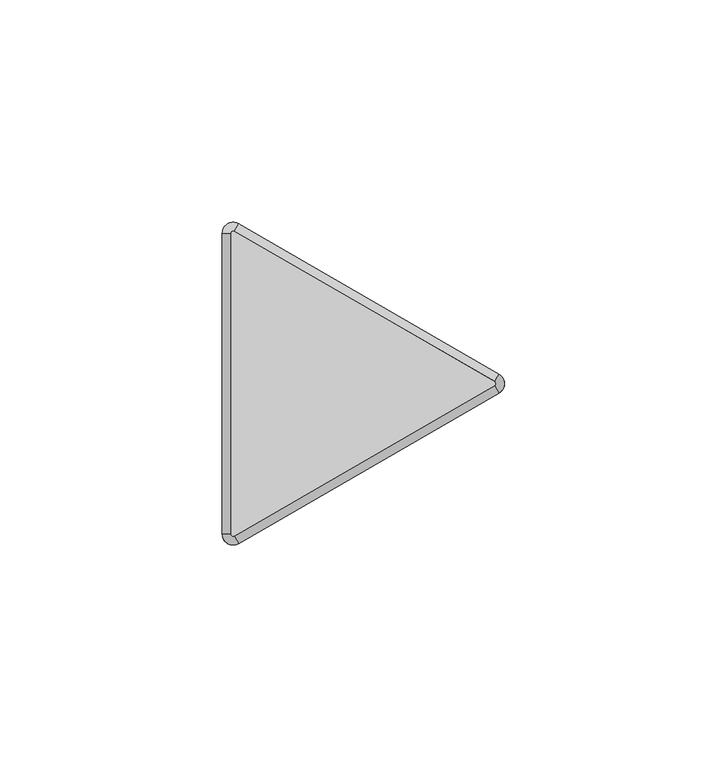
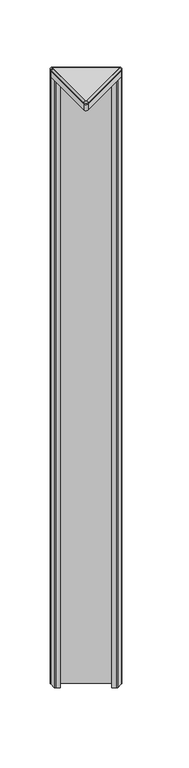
"""IFC4 building model written with IfcOpenShell, lengths in millimetres: furniture geometry, Steelcase - Answer Solution - Panel - 120deg Change-of-Height Trim - Thin : V Corner - 30H for 78H App."""

import ifcopenshell
import ifcopenshell.guid

model = None  # the IFC model being written
_history = None  # IfcOwnerHistory: only IFC2X3 demands one
_inside = {}  # id of a spatial element -> (the spatial element, [elements in it])
_under = {}  # id of a project, library or spatial element -> (it, [spatial elements below it])
_declared = {}  # id of a project -> (the project, [libraries it declares])
_typed = {}  # id of a type object -> (the type object, [elements of that type])
_made_of = {}  # id of a material, layer set ... -> (it, [elements and type objects made of it])


def new_model(schema):
    """Start an empty IFC model of exactly this schema.

    Asked for "IFC4X3", IfcOpenShell would pick the latest addendum, in which some entities
    have other attributes; the version numbers below select the first issue.
    IFC2X3 requires an IfcOwnerHistory on every rooted entity: one is made here for all.
    """
    global model, _history
    if schema == "IFC4X3":
        model = ifcopenshell.file(schema_version=(4, 3, 0, 0))
    else:
        model = ifcopenshell.file(schema=schema)
    _inside.clear()
    _under.clear()
    _declared.clear()
    _typed.clear()
    _made_of.clear()
    _history = None
    if model.schema == "IFC2X3":
        org = make("IfcOrganization", Name="unknown")
        user = make(
            "IfcPersonAndOrganization",
            ThePerson=make("IfcPerson", FamilyName="unknown"),
            TheOrganization=org,
        )
        app = make(
            "IfcApplication",
            ApplicationDeveloper=org,
            Version="unknown",
            ApplicationFullName="unknown",
            ApplicationIdentifier="unknown",
        )
        _history = make(
            "IfcOwnerHistory",
            OwningUser=user,
            OwningApplication=app,
            ChangeAction="ADDED",
            CreationDate=0,
        )
    return model


def make(cls, **values):
    """One entity of the class cls with the attributes given. An attribute that is None is left unset."""
    return model.create_entity(
        cls, **{name: value for name, value in values.items() if value is not None}
    )


def rooted(cls, **values):
    """An entity with a GlobalId (a new one), such as an element, a storey or a relation."""
    return make(cls, GlobalId=ifcopenshell.guid.new(), OwnerHistory=_history, **values)


def si_unit(unit_type, name, prefix=None):
    """IfcSIUnit, for example si_unit("LENGTHUNIT", "METRE", prefix="MILLI")."""
    return make("IfcSIUnit", UnitType=unit_type, Prefix=prefix, Name=name)


def assignment(units):
    """IfcUnitAssignment: the units of a project."""
    return None if units is None else make("IfcUnitAssignment", Units=units)


def point(xyz):
    """IfcCartesianPoint."""
    return None if xyz is None else make("IfcCartesianPoint", Coordinates=xyz)


def direction(xyz):
    """IfcDirection."""
    return None if xyz is None else make("IfcDirection", DirectionRatios=xyz)


def frame(location, z_axis=None, x_axis=None):
    """IfcAxis2Placement3D, a coordinate frame: its origin and axes. An axis left out is left unset."""
    return make(
        "IfcAxis2Placement3D",
        Location=point(location),
        Axis=direction(z_axis),
        RefDirection=direction(x_axis),
    )


def frame_2d(location, x_axis=None):
    """IfcAxis2Placement2D, a coordinate frame in the plane: its origin and x axis."""
    return make(
        "IfcAxis2Placement2D", Location=point(location), RefDirection=direction(x_axis)
    )


def origin():
    """The frame at (0, 0, 0) with its axes left unset."""
    return frame((0.0, 0.0, 0.0))


def place(relative_to, where):
    """IfcLocalPlacement: puts the frame where relative to a parent placement (None: the world)."""
    return make(
        "IfcLocalPlacement", PlacementRelTo=relative_to, RelativePlacement=where
    )


def context(
    kind, dimensions, precision=None, world=None, true_north=None, identifier=None
):
    """IfcGeometricRepresentationContext, for example the 3D "Model" context."""
    return make(
        "IfcGeometricRepresentationContext",
        ContextIdentifier=identifier,
        ContextType=kind,
        CoordinateSpaceDimension=dimensions,
        Precision=precision,
        WorldCoordinateSystem=world,
        TrueNorth=true_north,
    )


def project(units=None, contexts=None):
    """IfcProject with its units and contexts."""
    return rooted(
        "IfcProject",
        Name="project",
        RepresentationContexts=contexts,
        UnitsInContext=assignment(units),
    )


def spatial(cls, under=None, at=None, **own):
    """A site, building, storey or space (cls), placed at a placement, below another one or the project."""
    s = rooted(cls, ObjectPlacement=at, **own)
    if under is not None:
        _under.setdefault(under.id(), (under, []))[1].append(s)
    return s


def polyline(points):
    """IfcPolyline through the points."""
    return make("IfcPolyline", Points=[point(p) for p in points])


def circle_curve(where, radius):
    """IfcCircle in the frame where."""
    return make("IfcCircle", Position=where, Radius=radius)


def ellipse_curve(where, semi_axis1, semi_axis2):
    """IfcEllipse in the frame where."""
    return make(
        "IfcEllipse", Position=where, SemiAxis1=semi_axis1, SemiAxis2=semi_axis2
    )


def trimmed(basis, trim1, trim2, sense, master):
    """IfcTrimmedCurve: the piece of a basis curve between two trims."""
    return make(
        "IfcTrimmedCurve",
        BasisCurve=basis,
        Trim1=trim1,
        Trim2=trim2,
        SenseAgreement=sense,
        MasterRepresentation=master,
    )


def segment(curve, same_sense, transition):
    """IfcCompositeCurveSegment."""
    return make(
        "IfcCompositeCurveSegment",
        Transition=transition,
        SameSense=same_sense,
        ParentCurve=curve,
    )


def composite_curve(segments, self_intersect=None):
    """IfcCompositeCurve: segments joined end to end."""
    return make("IfcCompositeCurve", Segments=segments, SelfIntersect=self_intersect)


def outline(outer, holes=None, kind="AREA"):
    """IfcArbitraryClosedProfileDef: a profile drawn as a closed curve; with holes, ...WithVoids."""
    if holes is None:
        return make("IfcArbitraryClosedProfileDef", ProfileType=kind, OuterCurve=outer)
    return make(
        "IfcArbitraryProfileDefWithVoids",
        ProfileType=kind,
        OuterCurve=outer,
        InnerCurves=holes,
    )


def extrude(swept, where, along, depth):
    """IfcExtrudedAreaSolid: the profile swept, set in the frame where, extruded along a direction by depth."""
    return make(
        "IfcExtrudedAreaSolid",
        SweptArea=swept,
        Position=where,
        ExtrudedDirection=direction(along),
        Depth=depth,
    )


def shape(context_of_items, identifier, shape_type, items):
    """IfcShapeRepresentation: the items that make up one representation, for example the "Body"."""
    return make(
        "IfcShapeRepresentation",
        ContextOfItems=context_of_items,
        RepresentationIdentifier=identifier,
        RepresentationType=shape_type,
        Items=items,
    )


def source(mapping_origin, context_of_items, identifier, shape_type, items):
    """IfcRepresentationMap: a shape defined once, which mapped items show again and again."""
    return make(
        "IfcRepresentationMap",
        MappingOrigin=mapping_origin,
        MappedRepresentation=shape(context_of_items, identifier, shape_type, items),
    )


def transform(
    local_origin,
    x_axis=None,
    y_axis=None,
    z_axis=None,
    scale=None,
    scale2=None,
    scale3=None,
    uniform=True,
):
    """IfcCartesianTransformationOperator3D, or its non-uniform kind. x_axis, y_axis, z_axis: its Axis1, 2, 3."""
    if uniform:
        return make(
            "IfcCartesianTransformationOperator3D",
            Axis1=direction(x_axis),
            Axis2=direction(y_axis),
            LocalOrigin=point(local_origin),
            Scale=scale,
            Axis3=direction(z_axis),
        )
    return make(
        "IfcCartesianTransformationOperator3DnonUniform",
        Axis1=direction(x_axis),
        Axis2=direction(y_axis),
        LocalOrigin=point(local_origin),
        Scale=scale,
        Axis3=direction(z_axis),
        Scale2=scale2,
        Scale3=scale3,
    )


def mapped(mapping_source, mapping_target):
    """IfcMappedItem: shows the shape of a source again, moved by a transform."""
    return make(
        "IfcMappedItem", MappingSource=mapping_source, MappingTarget=mapping_target
    )


def made_of(thing, what):
    """Note that an element or type object is made of a material, layer set ...; save() writes the relation."""
    if what is not None:
        _made_of.setdefault(what.id(), (what, []))[1].append(thing)
    return thing


def element(
    cls,
    number,
    at=None,
    inside=None,
    cuts=None,
    type_object=None,
    material=None,
    context=None,
    identifier="Body",
    shape_type=None,
    held_by="IfcProductDefinitionShape",
    body=None,
    shapes=None,
    **own,
):
    """One element of the class cls, such as IfcWall. Its Tag is "e" and its number.

    at: its placement. inside: the storey or other place that contains it. cuts: it is an
    opening in that element (IfcRelVoidsElement). A single representation is given by context,
    identifier, shape_type and body (its items); several are given by shapes. held_by: the class
    of the entity that holds the representations. save() writes the other relations.
    """
    e = rooted(cls, Tag="e%d" % number, ObjectPlacement=at, **own)
    if body is not None:
        shapes = [shape(context, identifier, shape_type, body)]
    if shapes is not None:
        e.Representation = make(held_by, Representations=shapes)
    if inside is not None:
        _inside.setdefault(inside.id(), (inside, []))[1].append(e)
    if cuts is not None:
        rooted(
            "IfcRelVoidsElement", RelatingBuildingElement=cuts, RelatedOpeningElement=e
        )
    if type_object is not None:
        _typed.setdefault(type_object.id(), (type_object, []))[1].append(e)
    return made_of(e, material)


def aggregate(whole, parts):
    """IfcRelAggregates: a whole, such as a stair, and the parts it consists of."""
    return rooted("IfcRelAggregates", RelatingObject=whole, RelatedObjects=parts)


def save(model, path):
    """Write the relations noted so far, then the file.

    IfcRelAggregates (storeys below a building ...), IfcRelContainedInSpatialStructure (elements
    in a storey), IfcRelDefinesByType, IfcRelAssociatesMaterial and IfcRelDeclares: one each for
    every whole, place, type object, material and project.
    """
    for whole, parts in _under.values():
        aggregate(whole, parts)
    for where, things in _inside.values():
        rooted(
            "IfcRelContainedInSpatialStructure",
            RelatedElements=things,
            RelatingStructure=where,
        )
    for kind, things in _typed.values():
        rooted("IfcRelDefinesByType", RelatedObjects=things, RelatingType=kind)
    for what, things in _made_of.values():
        rooted("IfcRelAssociatesMaterial", RelatedObjects=things, RelatingMaterial=what)
    for by, libraries in _declared.values():
        rooted("IfcRelDeclares", RelatingContext=by, RelatedDefinitions=libraries)
    model.write(path)


def plane_surface(at):
    """IfcPlane: the flat surface through the origin of the frame at, square to its z axis."""
    return make("IfcPlane", Position=at)


def cylinder_surface(at, radius):
    """IfcCylindricalSurface: all points at the distance radius from the z axis of the frame at."""
    return make("IfcCylindricalSurface", Position=at, Radius=radius)


def revolved_surface(curve, axis_point, axis_direction):
    """IfcSurfaceOfRevolution: the curve turned about the line through axis_point along axis_direction."""
    return make(
        "IfcSurfaceOfRevolution",
        SweptCurve=make("IfcArbitraryOpenProfileDef", ProfileType="CURVE", Curve=curve),
        AxisPosition=make("IfcAxis1Placement", Location=point(axis_point), Axis=direction(axis_direction)),
    )


def advanced_brep(points, edges, surfaces, faces):
    """IfcAdvancedBrep: a solid bounded by faces that lie on surfaces and meet in shared edges.

    An edge is (start, end): straight between two places in points (the first is 0);
    or (start, end, curve); or (start, end, curve, False) where it runs against its curve.
    A face is (place in surfaces, loops), or (place, loops, False) where it looks against
    its surface's normal. A loop lists edges by number (the first is 1), with a minus sign
    where the edge is run from its end to its start. The first loop is the outer one.
    """
    corners = [point(p) for p in points]
    vertices = [make("IfcVertexPoint", VertexGeometry=c) for c in corners]
    made = []
    for start, end, *more in edges:
        made.append(
            make(
                "IfcEdgeCurve",
                EdgeStart=vertices[start],
                EdgeEnd=vertices[end],
                EdgeGeometry=more[0] if more else make("IfcPolyline", Points=[corners[start], corners[end]]),
                SameSense=more[1] if len(more) > 1 else True,
            )
        )
    hull = []
    for where, loops, *sense in faces:
        bounds = []
        for j, loop in enumerate(loops):
            ring = [make("IfcOrientedEdge", EdgeElement=made[abs(k) - 1], Orientation=k > 0) for k in loop]
            bounds.append(
                make(
                    "IfcFaceOuterBound" if j == 0 else "IfcFaceBound",
                    Bound=make("IfcEdgeLoop", EdgeList=ring),
                    Orientation=True,
                )
            )
        hull.append(make("IfcAdvancedFace", Bounds=bounds, FaceSurface=surfaces[where], SameSense=sense[0] if sense else True))
    return make("IfcAdvancedBrep", Outer=make("IfcClosedShell", CfsFaces=hull))


def furniture_93f3fe4d(model_context):
    return source(origin(), model_context, "Body", "SolidModel", [
        advanced_brep(
        [(-10.518645, -37.3335529, 1985.6628978), (-14.2052101, -35.2051135, 1985.6628978), (-14.2052101, -35.2051135, 1984.7164663), (-10.518645, -37.3335529, 1984.7164663), (-11.46175, -35.7000471, 1987.55), (-12.319, -35.2051135, 1987.55), (-11.46175, -35.7000471, 1984.7164663), (-12.319, -35.2051135, 1984.7164663), (48.0429908, -3.5229767, 1984.7164663), (48.0429908, -3.5229767, 1985.6628978), (47.0998858, -1.8894709, 1987.55), (47.0998858, -1.8894709, 1984.7164663), (48.0429908, 0.733902, 1985.6628978), (48.0429908, 0.733902, 1984.7164663), (47.0998858, -0.8996038, 1987.55), (47.0998858, -0.8996038, 1984.7164663), (-10.518645, 34.5444782, 1984.7164663), (-14.2052101, 32.4160388, 1984.7164663), (-11.46175, 32.9109723, 1984.7164663), (-12.319, 32.4160388, 1984.7164663), (-10.518645, 34.5444782, 1985.6628978), (-11.46175, 32.9109723, 1987.55), (-14.2052101, 32.4160388, 1985.6628978), (-12.319, 32.4160388, 1987.55)],
        [
            (0, 1, circle_curve(frame((-11.7475, -35.2051135, 1985.6628978), z_axis=(0.0, 0.0, -1.0), x_axis=(-1.0, 0.0, 0.0)), 2.4577101)),
            (1, 2),
            (2, 3, circle_curve(frame((-11.7475, -35.2051135, 1984.7164663), z_axis=(0.0, 0.0, 1.0), x_axis=(-1.0, 0.0, 0.0)), 2.4577101)),
            (3, 0),
            (4, 5, circle_curve(frame((-11.7475, -35.2051135, 1987.55), z_axis=(0.0, 0.0, -1.0), x_axis=(-1.0, 0.0, 0.0)), 0.5715)),
            (5, 1, circle_curve(frame((-12.3181076, -35.2051135, 1985.6628978), z_axis=(0.0, -1.0, 0.0), x_axis=(1.0, 0.0, 0.0)), 1.8871024)),
            (0, 4, circle_curve(frame((-11.4621962, -35.6992743, 1985.6628978), z_axis=(-0.8660254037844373, -0.5000000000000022, 0.0), x_axis=(-0.5000000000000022, 0.8660254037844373, 0.0)), 1.8871024)),
            (6, 7, circle_curve(frame((-11.7475, -35.2051135, 1984.7164663), z_axis=(0.0, 0.0, -1.0), x_axis=(-1.0, 0.0, 0.0)), 0.5715)),
            (7, 5),
            (4, 6),
            (3, 8),
            (8, 9),
            (9, 0),
            (9, 10, circle_curve(frame((47.0994396, -1.8886981, 1985.6628978), z_axis=(-0.8660254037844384, -0.5000000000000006, 0.0), x_axis=(-0.5000000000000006, 0.8660254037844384, 0.0)), 1.8871024)),
            (10, 4),
            (10, 11),
            (11, 6),
            (12, 9, circle_curve(frame((46.8141358, -1.3945374, 1985.6628978), z_axis=(0.0, 0.0, -1.0), x_axis=(0.4999999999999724, -0.8660254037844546, 0.0)), 2.4577101)),
            (8, 13, circle_curve(frame((46.8141358, -1.3945374, 1984.7164663), z_axis=(0.0, 0.0, 1.0), x_axis=(0.4999999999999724, -0.8660254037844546, 0.0)), 2.4577101)),
            (13, 12),
            (14, 10, circle_curve(frame((46.8141358, -1.3945374, 1987.55), z_axis=(0.0, 0.0, -1.0), x_axis=(0.4999999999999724, -0.8660254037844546, 0.0)), 0.5715)),
            (12, 14, circle_curve(frame((47.0994396, -0.9003766, 1985.6628978), z_axis=(0.8660254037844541, -0.49999999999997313, 0.0), x_axis=(-0.49999999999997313, -0.8660254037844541, 0.0)), 1.8871024)),
            (15, 11, circle_curve(frame((46.8141358, -1.3945374, 1984.7164663), z_axis=(0.0, 0.0, -1.0), x_axis=(0.4999999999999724, -0.8660254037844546, 0.0)), 0.5715)),
            (14, 15),
            (16, 13),
            (2, 17),
            (17, 16, circle_curve(frame((-11.7475, 32.4160388, 1984.7164663), z_axis=(0.0, 0.0, -1.0), x_axis=(0.500000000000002, 0.8660254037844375, 0.0)), 2.4577101)),
            (15, 18),
            (18, 19, circle_curve(frame((-11.7475, 32.4160388, 1984.7164663), z_axis=(0.0, 0.0, 1.0), x_axis=(0.500000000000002, 0.8660254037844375, 0.0)), 0.5715)),
            (19, 7),
            (16, 20),
            (20, 12),
            (20, 21, circle_curve(frame((-11.4621962, 32.9101995, 1985.6628978), z_axis=(0.8660254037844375, -0.5000000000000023, 0.0), x_axis=(-0.5000000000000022, -0.8660254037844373, 0.0)), 1.8871024)),
            (21, 14),
            (21, 18),
            (22, 20, circle_curve(frame((-11.7475, 32.4160388, 1985.6628978), z_axis=(0.0, 0.0, -1.0), x_axis=(0.500000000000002, 0.8660254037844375, 0.0)), 2.4577101)),
            (17, 22),
            (23, 21, circle_curve(frame((-11.7475, 32.4160388, 1987.55), z_axis=(0.0, 0.0, -1.0), x_axis=(0.500000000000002, 0.8660254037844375, 0.0)), 0.5715)),
            (22, 23, circle_curve(frame((-12.3181076, 32.4160388, 1985.6628978), z_axis=(0.0, 1.0, 0.0), x_axis=(1.0, 0.0, 0.0)), 1.8871024)),
            (23, 19),
            (1, 22),
            (5, 23),
        ],
        [
            cylinder_surface(frame((-11.7475, -35.2051135, 0.0), z_axis=(0.0, 0.0, 1.0), x_axis=(-1.0, 0.0, 0.0)), 2.4577101),
            revolved_surface(trimmed(ellipse_curve(frame((-12.3181076, -35.2051135, 1985.6628978), z_axis=(0.0, 1.0, 0.0), x_axis=(1.0, 0.0, 0.0)), 1.8871024, 1.8871024), [point((-14.2052101, -35.2051135, 1985.6628978))], [point((-12.319, -35.2051135, 1987.55))], True, "CARTESIAN"), (-11.7475, -35.2051135, 0.0), (0.0, 0.0, 1.0)),
            revolved_surface(polyline([(-12.319, -35.2051135, 1987.55), (-12.319, -35.2051135, 1984.7164663)]), (-11.7475, -35.2051135, 0.0), (0.0, 0.0, 1.0)),
            plane_surface(frame((-10.518645, -37.3335529, 1984.7164663), z_axis=(0.5000000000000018, -0.8660254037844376, 0.0), x_axis=(0.8660254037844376, 0.5000000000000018, 0.0))),
            cylinder_surface(frame((-11.4621962, -35.6992743, 1985.6628978), z_axis=(-0.8660254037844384, -0.5000000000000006, 0.0), x_axis=(-0.5000000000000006, 0.8660254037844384, 0.0)), 1.8871024),
            plane_surface(frame((-11.46175, -35.7000471, 1987.55), z_axis=(-0.5000000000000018, 0.8660254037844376, 0.0), x_axis=(0.8660254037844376, 0.5000000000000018, 0.0))),
            cylinder_surface(frame((46.8141358, -1.3945374, 0.0), z_axis=(0.0, 0.0, 1.0), x_axis=(0.4999999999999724, -0.8660254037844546, 0.0)), 2.4577101),
            revolved_surface(trimmed(ellipse_curve(frame((47.0994396, -1.8886981, 1985.6628978), z_axis=(-0.8660254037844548, -0.499999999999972, 0.0), x_axis=(-0.499999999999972, 0.8660254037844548, 0.0)), 1.8871024, 1.8871024), [point((48.0429908, -3.5229767, 1985.6628978))], [point((47.0998858, -1.8894709, 1987.55))], True, "CARTESIAN"), (46.8141358, -1.3945374, 0.0), (0.0, 0.0, 1.0)),
            revolved_surface(polyline([(47.09988579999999, -1.8894709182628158, 1987.55), (47.09988579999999, -1.8894709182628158, 1984.7164663)]), (46.8141358, -1.3945374, 0.0), (0.0, 0.0, 1.0)),
            plane_surface(frame((47.0998858, -0.8996038, 1984.7164663), z_axis=(0.0, 0.0, -1.0), x_axis=(-0.8660254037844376, 0.5000000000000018, 0.0))),
            plane_surface(frame((48.0429908, 0.733902, 1984.7164663), z_axis=(0.5000000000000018, 0.8660254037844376, 0.0), x_axis=(-0.8660254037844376, 0.5000000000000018, 0.0))),
            cylinder_surface(frame((47.0994396, -0.9003766, 1985.6628978), z_axis=(0.8660254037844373, -0.5000000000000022, 0.0), x_axis=(-0.5000000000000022, -0.8660254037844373, 0.0)), 1.8871024),
            plane_surface(frame((47.0998858, -0.8996038, 1987.55), z_axis=(-0.5000000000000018, -0.8660254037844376, 0.0), x_axis=(-0.8660254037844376, 0.5000000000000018, 0.0))),
            cylinder_surface(frame((-11.7475, 32.4160388, 0.0), z_axis=(0.0, 0.0, 1.0), x_axis=(0.500000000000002, 0.8660254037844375, 0.0)), 2.4577101),
            revolved_surface(trimmed(ellipse_curve(frame((-11.4621962, 32.9101995, 1985.6628978), z_axis=(0.866025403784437, -0.5000000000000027, 0.0), x_axis=(-0.5000000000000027, -0.866025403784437, 0.0)), 1.8871024, 1.8871024), [point((-10.518645, 34.5444782, 1985.6628978))], [point((-11.46175, 32.9109723, 1987.55))], True, "CARTESIAN"), (-11.7475, 32.4160388, 0.0), (0.0, 0.0, 1.0)),
            revolved_surface(polyline([(-11.461749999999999, 32.91097231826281, 1987.55), (-11.461749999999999, 32.91097231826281, 1984.7164663)]), (-11.7475, 32.4160388, 0.0), (0.0, 0.0, 1.0)),
            plane_surface(frame((-14.2052101, 32.4160388, 1984.7164663), z_axis=(-1.0, 0.0, 0.0), x_axis=(0.0, -1.0, 0.0))),
            cylinder_surface(frame((-12.3181076, 32.4160388, 1985.6628978), z_axis=(0.0, 1.0, 0.0), x_axis=(1.0, 0.0, 0.0)), 1.8871024),
            plane_surface(frame((-12.319, 32.4160388, 1987.55), z_axis=(1.0, 0.0, 0.0), x_axis=(0.0, -1.0, 0.0))),
        ],
        [
            (0, [[1, 2, 3, 4]]),
            (1, [[5, 6, -1, 7]]),
            (2, [[8, 9, -5, 10]]),
            (3, [[-4, 11, 12, 13]]),
            (4, [[-7, -13, 14, 15]]),
            (5, [[-10, -15, 16, 17]]),
            (6, [[18, -12, 19, 20]]),
            (7, [[21, -14, -18, 22]]),
            (8, [[23, -16, -21, 24]]),
            (9, [[25, -19, -11, -3, 26, 27], [-8, -17, -23, 28, 29, 30]]),
            (10, [[-20, -25, 31, 32]]),
            (11, [[-22, -32, 33, 34]]),
            (12, [[-24, -34, 35, -28]]),
            (13, [[36, -31, -27, 37]]),
            (14, [[38, -33, -36, 39]]),
            (15, [[-29, -35, -38, 40]]),
            (16, [[-37, -26, -2, 41]]),
            (17, [[-39, -41, -6, 42]]),
            (18, [[-40, -42, -9, -30]]),
        ],
    ),
        extrude(outline(composite_curve([segment(trimmed(circle_curve(frame_2d((46.8261011, -1.3945374)), 0.5655173), [point((47.1088598, -0.904785))], [point((47.1088598, -1.8842897))], False, "CARTESIAN"), True, "CONTINUOUS"), segment(polyline([(47.1088598, -1.8842897), (-11.4505119, -35.6935587)]), True, "CONTINUOUS"), segment(trimmed(circle_curve(frame_2d((-11.7400079, -35.1921369)), 0.5789921), [point((-11.4505119, -35.6935587))], [point((-12.319, -35.1921369))], False, "CARTESIAN"), True, "CONTINUOUS"), segment(polyline([(-12.319, -35.1921369), (-12.319, 32.3985888)]), True, "CONTINUOUS"), segment(trimmed(circle_curve(frame_2d((-11.7374252, 32.3985888)), 0.5815748), [point((-12.319, 32.3985888))], [point((-11.4466378, 32.9022473))], False, "CARTESIAN"), True, "CONTINUOUS"), segment(polyline([(-11.4466378, 32.9022473), (47.1088598, -0.904785)]), True, "CONTINUOUS")], self_intersect=False)), frame((0.0, 0.0, 1984.7164663), z_axis=(0.0, 0.0, 1.0), x_axis=(1.0, 0.0, 0.0)), (0.0, 0.0, 1.0), 2.8335337),
        extrude(outline(composite_curve([segment(trimmed(circle_curve(frame_2d((47.9608454, -1.3945374)), 1.2935425), [point((48.6076166, -0.2742967))], [point((48.6076166, -2.514778))], False, "CARTESIAN"), True, "CONTINUOUS"), segment(polyline([(48.6076166, -2.514778), (41.722656, -6.4898119)]), True, "CONTINUOUS"), segment(trimmed(circle_curve(frame_2d((41.0991304, -5.4098338)), 1.2470513), [point((41.722656, -6.4898119))], [point((40.4756048, -6.4898119))], False, "CARTESIAN"), True, "CONTINUOUS"), segment(polyline([(40.4756048, -6.4898119), (36.3239304, -4.0928416), (36.7811304, -3.300948), (41.0991304, -5.7939464), (47.3502407, -2.1848662)]), True, "CONTINUOUS"), segment(trimmed(circle_curve(frame_2d((46.8939441, -1.3945374)), 0.9125932), [point((47.3502407, -2.1848662))], [point((47.3502407, -0.6042085))], True, "CARTESIAN"), True, "CONTINUOUS"), segment(polyline([(47.3502407, -0.6042085), (-11.3312768, 33.2755814)]), True, "CONTINUOUS"), segment(trimmed(circle_curve(frame_2d((-11.7875179, 32.4853487)), 0.9124821), [point((-11.3312768, 33.2755814))], [point((-12.7, 32.4853487))], True, "CARTESIAN"), True, "CONTINUOUS"), segment(polyline([(-12.7, 32.4853487), (-12.7, 25.266996), (-8.382, 22.7739975), (-8.8392, 21.9821039), (-12.9583282, 24.3602837)]), True, "CONTINUOUS"), segment(trimmed(circle_curve(frame_2d((-12.3022565, 25.4966333)), 1.3121435), [point((-12.9583282, 24.3602837))], [point((-13.6144, 25.4966333))], False, "CARTESIAN"), True, "CONTINUOUS"), segment(polyline([(-13.6144, 25.4966333), (-13.6144, 33.3957138)]), True, "CONTINUOUS"), segment(trimmed(circle_curve(frame_2d((-12.3131174, 33.3957138)), 1.3012826), [point((-13.6144, 33.3957138))], [point((-11.6624761, 34.5226576))], False, "CARTESIAN"), True, "CONTINUOUS"), segment(polyline([(-11.6624761, 34.5226576), (48.6076166, -0.2742967)]), True, "CONTINUOUS")], self_intersect=False)), frame((0.0, 0.0, 1225.55), z_axis=(0.0, 0.0, 1.0), x_axis=(1.0, 0.0, 0.0)), (0.0, 0.0, 1.0), 751.84),
        extrude(outline(composite_curve([segment(trimmed(circle_curve(frame_2d((46.8140443, -1.3945374)), 2.4577558), [point((48.0429222, 0.7339416))], [point((48.0429222, -3.5230163))], False, "CARTESIAN"), True, "CONTINUOUS"), segment(polyline([(48.0429222, -3.5230163), (-10.518058, -37.333214)]), True, "CONTINUOUS"), segment(trimmed(circle_curve(frame_2d((-11.7471087, -35.2044357)), 2.4581014), [point((-10.518058, -37.333214))], [point((-14.2052101, -35.2044357))], False, "CARTESIAN"), True, "CONTINUOUS"), segment(polyline([(-14.2052101, -35.2044357), (-14.2052101, 32.4160388)]), True, "CONTINUOUS"), segment(trimmed(circle_curve(frame_2d((-11.7475, 32.4160388)), 2.4577101), [point((-14.2052101, 32.4160388))], [point((-10.518645, 34.5444782))], False, "CARTESIAN"), True, "CONTINUOUS"), segment(polyline([(-10.518645, 34.5444782), (48.0429222, 0.7339416)]), True, "CONTINUOUS")], self_intersect=False)), frame((0.0, 0.0, 1977.39), z_axis=(0.0, 0.0, 1.0), x_axis=(1.0, 0.0, 0.0)), (0.0, 0.0, 1.0), 7.3264663),
    ])


if __name__ == "__main__":
    model = new_model("IFC4")
    model_context = context("Model", 3, world=origin())
    ifc_project = project(units=[si_unit("LENGTHUNIT", "METRE", prefix="MILLI")], contexts=[model_context])
    site = spatial("IfcSite", under=ifc_project)
    building = spatial("IfcBuilding", under=site)
    placement = place(None, origin())
    furniture_shape = furniture_93f3fe4d(model_context)
    element("IfcFurniture", 1, ObjectType="Steelcase - Answer Solution - Panel - 120deg Change-of-Height Trim - Thin : V Corner - 30H for 78H App", at=placement, inside=building, context=model_context, shape_type="MappedRepresentation", body=[
        mapped(furniture_shape, transform((0.0, 0.0, 0.0), x_axis=(1.0, 0.0, 0.0), y_axis=(0.0, 1.0, 0.0), z_axis=(0.0, 0.0, 1.0))),
    ])
    save(model, "model.ifc")
